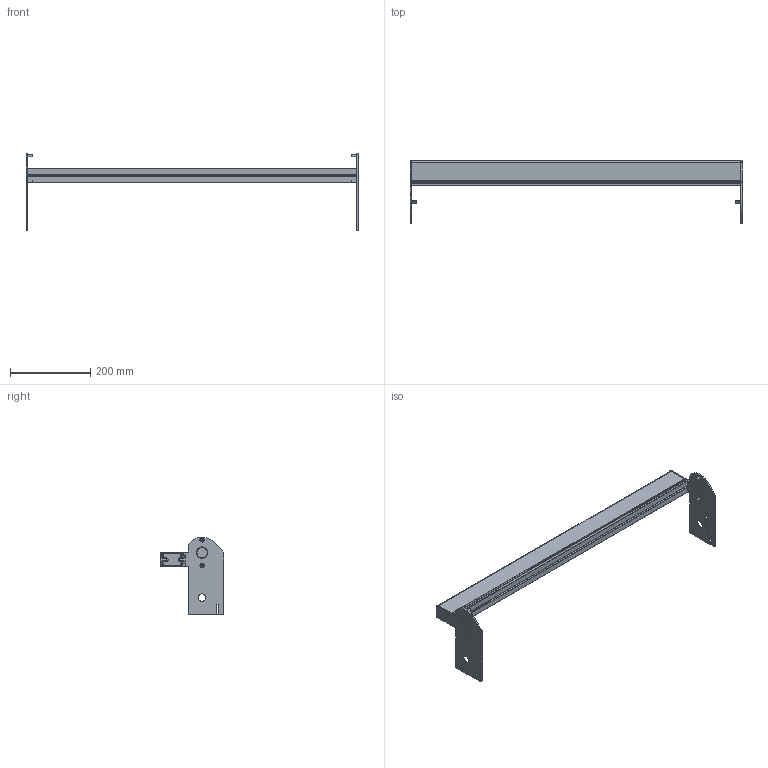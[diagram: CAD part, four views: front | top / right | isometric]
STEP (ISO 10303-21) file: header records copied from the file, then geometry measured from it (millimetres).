
FILE_DESCRIPTION((''),'2;1');
FILE_NAME('350712-32_ASM','2023-03-22T',('jenni.wallner'),(''),'PRO/ENGINEER BY PARAMETRIC TECHNOLOGY CORPORATION, 2012420','PRO/ENGINEER BY PARAMETRIC TECHNOLOGY CORPORATION, 2012420','');
FILE_SCHEMA(('CONFIG_CONTROL_DESIGN'));
Length unit declared in the file: inch
Products named in the file (6): 350669-32; 350667; 350668; 930412M; 930516M; 350712-32_ASM
Assembly tree (11 placements, depth 2):
  350712-32_ASM
    350669-32
    350667
    350668
    930412M  x4
    930516M  x4
Bounding box: 825.14 x 158.09 x 193.27 mm (x, y, z)
Volume: 758532.7 mm3; surface area: 494108.2 mm2
Topology: 11 solids, 11 shells, 334 faces, 872 edges, 568 vertices
Faces by surface type: plane 150, cylinder 136, cone 48
Entity records: 7773 total; most frequent: DIRECTION 1398, CARTESIAN_POINT 1317, ORIENTED_EDGE 1288, EDGE_CURVE 644, AXIS2_PLACEMENT_3D 505, VERTEX_POINT 424, VECTOR 388, LINE 388
